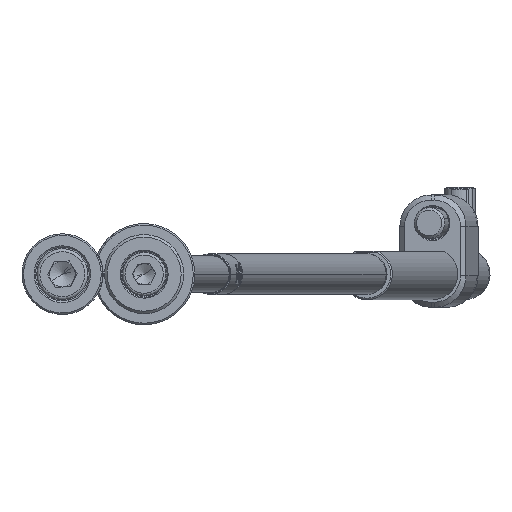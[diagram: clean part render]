
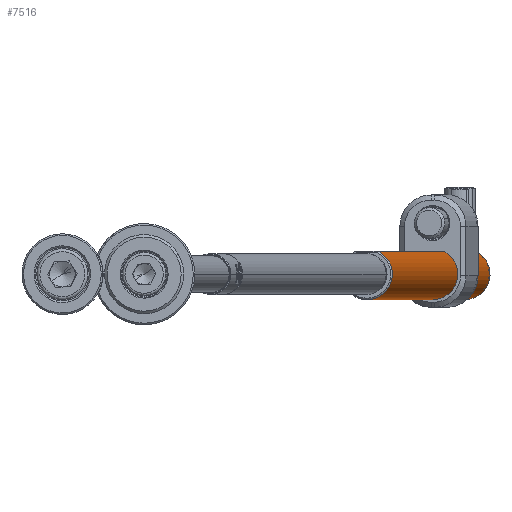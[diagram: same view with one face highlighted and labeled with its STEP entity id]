
A CAD part, front view. The second image highlights one B-rep face of the part: STEP entity #7516.
In plain terms, the highlighted cylindrical face has radius 5 mm (diameter 10 mm), a partial arc.
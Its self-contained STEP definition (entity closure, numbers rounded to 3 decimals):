
#212 = EDGE_LOOP ( 'NONE', ( #11782, #12526, #3560, #6013, #10208, #5119 ) ) ;
#329 = CARTESIAN_POINT ( 'NONE',  ( 4.068, -2.908, 9.236 ) ) ;
#394 = CIRCLE ( 'NONE', #4089, 5. ) ;
#404 = CARTESIAN_POINT ( 'NONE',  ( 4.5, -2.179, 12.062 ) ) ;
#1083 = EDGE_CURVE ( 'NONE', #12521, #7399, #13680, .T. ) ;
#1263 = CIRCLE ( 'NONE', #6727, 5. ) ;
#1583 = CARTESIAN_POINT ( 'NONE',  ( 0., 0., 199.7 ) ) ;
#1897 = VECTOR ( 'NONE', #2859, 1000. ) ;
#2167 = CARTESIAN_POINT ( 'NONE',  ( 4.203, -2.709, 11.303 ) ) ;
#2433 = CARTESIAN_POINT ( 'NONE',  ( 4.5, -2.179, 7.938 ) ) ;
#2783 = CARTESIAN_POINT ( 'NONE',  ( 4.5, -2.179, 200. ) ) ;
#2859 = DIRECTION ( 'NONE',  ( 0., 0., -1. ) ) ;
#2931 = DIRECTION ( 'NONE',  ( 0., 0., -1. ) ) ;
#3092 = CARTESIAN_POINT ( 'NONE',  ( -5., 0., 199.7 ) ) ;
#3171 = DIRECTION ( 'NONE',  ( 1., 0., 0. ) ) ;
#3306 = CARTESIAN_POINT ( 'NONE',  ( 4.376, -2.422, 8.22 ) ) ;
#3372 = CARTESIAN_POINT ( 'NONE',  ( 4.258, -2.623, 8.532 ) ) ;
#3447 = CARTESIAN_POINT ( 'NONE',  ( 4., -3., 9.809 ) ) ;
#3560 = ORIENTED_EDGE ( 'NONE', *, *, #8387, .T. ) ;
#3995 = CARTESIAN_POINT ( 'NONE',  ( 0., 0., 200. ) ) ;
#4089 = AXIS2_PLACEMENT_3D ( 'NONE', #1583, #7088, #11479 ) ;
#4329 = CARTESIAN_POINT ( 'NONE',  ( 0., 0., 0.3 ) ) ;
#4677 = EDGE_CURVE ( 'NONE', #7279, #11728, #394, .T. ) ;
#4727 = CARTESIAN_POINT ( 'NONE',  ( 4.438, -2.308, 8.074 ) ) ;
#4867 = CARTESIAN_POINT ( 'NONE',  ( 4.5, -2.179, 0.3 ) ) ;
#5119 = ORIENTED_EDGE ( 'NONE', *, *, #10103, .F. ) ;
#5330 = CARTESIAN_POINT ( 'NONE',  ( 4.5, -2.179, 12.062 ) ) ;
#5433 = EDGE_CURVE ( 'NONE', #11728, #7144, #6282, .T. ) ;
#5532 = CARTESIAN_POINT ( 'NONE',  ( 4.015, -2.98, 10.396 ) ) ;
#6013 = ORIENTED_EDGE ( 'NONE', *, *, #1083, .F. ) ;
#6282 = LINE ( 'NONE', #11683, #12781 ) ;
#6516 = CARTESIAN_POINT ( 'NONE',  ( 4.069, -2.906, 10.771 ) ) ;
#6727 = AXIS2_PLACEMENT_3D ( 'NONE', #4329, #10644, #3171 ) ;
#7088 = DIRECTION ( 'NONE',  ( 0., 0., -1. ) ) ;
#7144 = VERTEX_POINT ( 'NONE', #11773 ) ;
#7279 = VERTEX_POINT ( 'NONE', #11102 ) ;
#7293 = DIRECTION ( 'NONE',  ( -1., 0., 0. ) ) ;
#7399 = VERTEX_POINT ( 'NONE', #4867 ) ;
#7516 = ADVANCED_FACE ( 'NONE', ( #13824 ), #12752, .T. ) ;
#7542 = CARTESIAN_POINT ( 'NONE',  ( 4.259, -2.621, 11.47 ) ) ;
#7593 = B_SPLINE_CURVE_WITH_KNOTS ( 'NONE', 3,
 ( #5330, #9706, #14065, #7542, #2167, #14141, #6516, #5532, #10190, #3447, #7663, #329, #9026, #9904, #3372, #3306, #4727, #8890 ),
 .UNSPECIFIED., .F., .F.,
 ( 4, 2, 2, 2, 2, 2, 2, 2, 4 ),
 ( 0., 0.001, 0.001, 0.002, 0.002, 0.003, 0.003, 0.004, 0.005 ),
 .UNSPECIFIED. ) ;
#7663 = CARTESIAN_POINT ( 'NONE',  ( 4.014, -2.982, 9.617 ) ) ;
#7759 = LINE ( 'NONE', #12155, #12024 ) ;
#8155 = AXIS2_PLACEMENT_3D ( 'NONE', #3995, #2931, #7293 ) ;
#8387 = EDGE_CURVE ( 'NONE', #7144, #7399, #1263, .T. ) ;
#8417 = EDGE_CURVE ( 'NONE', #13938, #12521, #7593, .T. ) ;
#8890 = CARTESIAN_POINT ( 'NONE',  ( 4.5, -2.179, 7.938 ) ) ;
#9026 = CARTESIAN_POINT ( 'NONE',  ( 4.107, -2.852, 9.051 ) ) ;
#9706 = CARTESIAN_POINT ( 'NONE',  ( 4.438, -2.307, 11.926 ) ) ;
#9904 = CARTESIAN_POINT ( 'NONE',  ( 4.202, -2.711, 8.701 ) ) ;
#10103 = EDGE_CURVE ( 'NONE', #7279, #13938, #7759, .T. ) ;
#10190 = CARTESIAN_POINT ( 'NONE',  ( 4., -3., 10.198 ) ) ;
#10208 = ORIENTED_EDGE ( 'NONE', *, *, #8417, .F. ) ;
#10604 = DIRECTION ( 'NONE',  ( 0., 0., -1. ) ) ;
#10644 = DIRECTION ( 'NONE',  ( 0., 0., 1. ) ) ;
#11102 = CARTESIAN_POINT ( 'NONE',  ( 4.5, -2.179, 199.7 ) ) ;
#11479 = DIRECTION ( 'NONE',  ( 1., 0., 0. ) ) ;
#11683 = CARTESIAN_POINT ( 'NONE',  ( -5., 0., 200. ) ) ;
#11728 = VERTEX_POINT ( 'NONE', #3092 ) ;
#11773 = CARTESIAN_POINT ( 'NONE',  ( -5., 0., 0.3 ) ) ;
#11782 = ORIENTED_EDGE ( 'NONE', *, *, #4677, .T. ) ;
#11904 = DIRECTION ( 'NONE',  ( 0., 0., -1. ) ) ;
#12024 = VECTOR ( 'NONE', #11904, 1000. ) ;
#12155 = CARTESIAN_POINT ( 'NONE',  ( 4.5, -2.179, 200. ) ) ;
#12521 = VERTEX_POINT ( 'NONE', #2433 ) ;
#12526 = ORIENTED_EDGE ( 'NONE', *, *, #5433, .T. ) ;
#12752 = CYLINDRICAL_SURFACE ( 'NONE', #8155, 5. ) ;
#12781 = VECTOR ( 'NONE', #10604, 1000. ) ;
#13680 = LINE ( 'NONE', #2783, #1897 ) ;
#13824 = FACE_OUTER_BOUND ( 'NONE', #212, .T. ) ;
#13938 = VERTEX_POINT ( 'NONE', #404 ) ;
#14065 = CARTESIAN_POINT ( 'NONE',  ( 4.376, -2.421, 11.781 ) ) ;
#14141 = CARTESIAN_POINT ( 'NONE',  ( 4.108, -2.851, 10.952 ) ) ;
